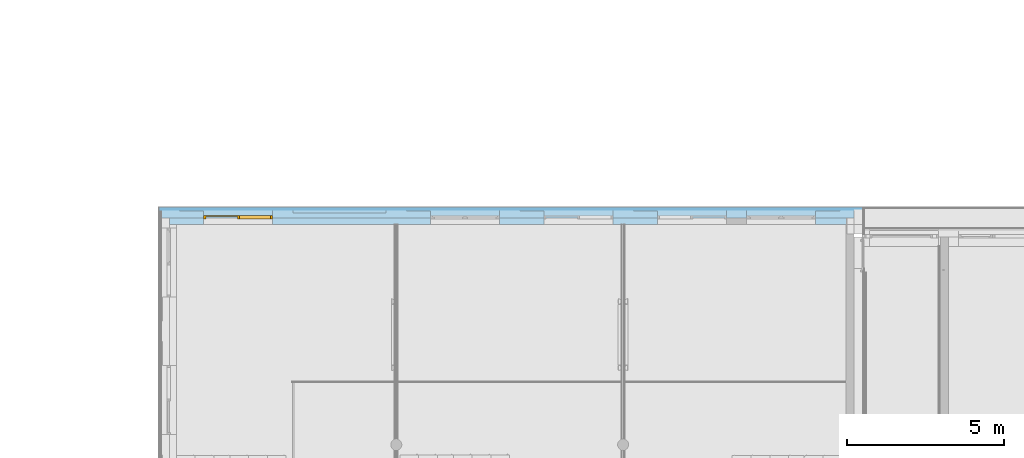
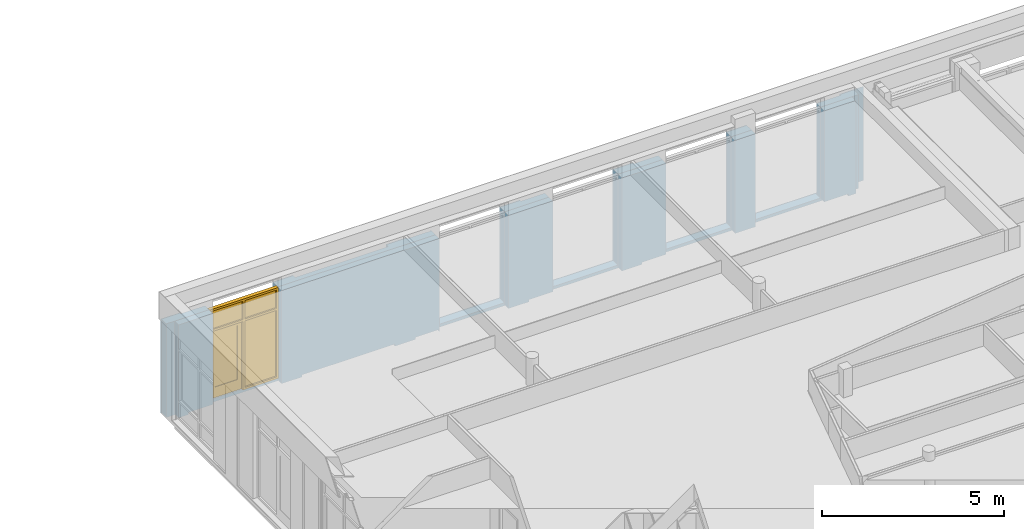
# One storey, part 41 of 167: 1 door, 11 openings, 1 element without a shape of its own, plus 3 elements that do not belong to this part.
"""IFC2X3 building model written with IfcOpenShell, lengths in millimetres."""

from ifc_helpers import new_model, entity, si_unit, converted_unit, derived_unit, money_unit, direction, frame, origin_with_axes, place, context, subcontext, project, spatial, open_shell, faceted_brep, surface_model, source, transform, mapped, material, type_object, type_shapes, element, fill, aggregate, save


model = new_model("IFC2X3")

# Units and contexts
model_context = context("Model", 3, precision=0.01, world=origin_with_axes(), true_north=direction((0.0, 1.0)))
plan_context = context("Plan", 3, precision=0.01, world=origin_with_axes(), true_north=direction((0.0, 1.0)))
body_context = subcontext(model_context, "Body", "Model", "MODEL_VIEW")
ifc_project = project(units=[si_unit("LENGTHUNIT", "METRE", prefix="MILLI"), si_unit("AREAUNIT", "SQUARE_METRE"), si_unit("VOLUMEUNIT", "CUBIC_METRE"), converted_unit("PLANEANGLEUNIT", "DEGREE", entity("IfcPlaneAngleMeasure", 0.0174532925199), si_unit("PLANEANGLEUNIT", "RADIAN"), dimensions=[0, 0, 0, 0, 0, 0, 0]), si_unit("SOLIDANGLEUNIT", "STERADIAN"), money_unit("EUR"), converted_unit("TIMEUNIT", "Year", entity("IfcTimeMeasure", 31556926.0), si_unit("TIMEUNIT", "SECOND"), dimensions=[0, 0, 1, 0, 0, 0, 0]), si_unit("MASSUNIT", "GRAM", prefix="KILO"), si_unit("THERMODYNAMICTEMPERATUREUNIT", "DEGREE_CELSIUS"), si_unit("LUMINOUSINTENSITYUNIT", "LUMEN"), si_unit("ENERGYUNIT", "JOULE", prefix="MEGA"), derived_unit("THERMALCONDUCTANCEUNIT", [(si_unit("POWERUNIT", "WATT"), 1), (si_unit("LENGTHUNIT", "METRE"), -1), (si_unit("THERMODYNAMICTEMPERATUREUNIT", "KELVIN"), -1)]), derived_unit("SPECIFICHEATCAPACITYUNIT", [(si_unit("ENERGYUNIT", "JOULE"), 1), (si_unit("MASSUNIT", "GRAM", prefix="KILO"), -1), (si_unit("THERMODYNAMICTEMPERATUREUNIT", "KELVIN"), -1)]), derived_unit("MASSDENSITYUNIT", [(si_unit("MASSUNIT", "GRAM", prefix="KILO"), 1), (si_unit("VOLUMEUNIT", "CUBIC_METRE"), -1)])], contexts=[model_context, plan_context])

# Site, building, storey
site_placement = place(None, origin_with_axes())
site = spatial("IfcSite", under=ifc_project, at=site_placement, Name="Site", CompositionType="ELEMENT")
building_placement = place(site_placement, origin_with_axes())
building = spatial("IfcBuilding", under=site, at=building_placement, Name="Naam gebouw", CompositionType="ELEMENT")
storey_placement = place(building_placement, origin_with_axes())
storey = spatial("IfcBuildingStorey", under=building, at=storey_placement, Name="Begane grond", CompositionType="ELEMENT", Elevation=0.0)

# Door
door_style = type_object("IfcDoorStyle", Name="D1 bl zl1-b 24", ConstructionType="NOTDEFINED", OperationType="SINGLE_SWING_LEFT", ParameterTakesPrecedence=False, Sizeable=False)
shared_shape = source(origin_with_axes(), body_context, "Body", "SurfaceModel", [
    faceted_brep([(1095.0, 0.0, 0.0), (1095.0, -114.0, 0.0), (1028.0, -114.0, 0.0), (1028.0, 0.0, 0.0), (1095.0, 0.0, 2983.0), (1095.0, -114.0, 2983.0), (1028.0, -114.0, 2983.0), (1028.0, -114.0, 2367.0), (1028.0, -114.0, 2300.0), (1028.0, -114.0, 67.0), (1028.0, 0.0, 67.0), (1028.0, 0.0, 2300.0), (1028.0, 0.0, 2367.0), (1028.0, 0.0, 2983.0)], [[[0, 1, 2, 3]], [[4, 5, 1, 0]], [[1, 5, 6, 7, 8, 9, 2]], [[3, 2, 9, 10]], [[0, 3, 10, 11, 12, 13, 4]], [[13, 6, 5, 4]], [[12, 7, 6, 13]], [[11, 8, 7, 12]], [[10, 9, 8, 11]]]),
    faceted_brep([(-28.0, -40.0, 2317.0), (-28.0, -40.0, 2300.0), (-28.0, -114.0, 2300.0), (-28.0, -114.0, 2367.0), (-28.0, 0.0, 2367.0), (-28.0, 0.0, 2317.0), (-11.0, -40.0, 2317.0), (-11.0, -40.0, 0.0), (-28.0, -40.0, 0.0), (-28.0, -114.0, 0.0), (39.0, -114.0, 0.0), (39.0, -114.0, 67.0), (39.0, -114.0, 2300.0), (39.0, -114.0, 2367.0), (39.0, -114.0, 2983.0), (-28.0, -114.0, 2983.0), (-28.0, 0.0, 2983.0), (-11.0, 0.0, 2317.0), (39.0, 0.0, 2983.0), (39.0, 0.0, 2367.0), (39.0, 0.0, 2300.0), (39.0, 0.0, 67.0), (39.0, 0.0, 0.0), (-11.0, 0.0, 0.0)], [[[0, 1, 2, 3, 4, 5]], [[0, 6, 7, 8, 1]], [[8, 9, 2, 1]], [[2, 9, 10, 11, 12, 13, 14, 15, 3]], [[16, 4, 3, 15]], [[17, 5, 4, 16, 18, 19, 20, 21, 22, 23]], [[5, 17, 6, 0]], [[23, 7, 6, 17]], [[7, 23, 22, 10, 9, 8]], [[22, 21, 11, 10]], [[21, 20, 12, 11]], [[20, 19, 13, 12]], [[19, 18, 14, 13]], [[18, 16, 15, 14]]]),
    faceted_brep([(1028.0, 0.0, 67.0), (1028.0, -114.0, 67.0), (1028.0, -114.0, 0.0), (1028.0, 0.0, 0.0), (39.0, 0.0, 67.0), (39.0, -114.0, 67.0), (39.0, -114.0, 0.0), (39.0, 0.0, 0.0)], [[[0, 1, 2, 3]], [[4, 5, 1, 0]], [[1, 5, 6, 2]], [[3, 2, 6, 7]], [[0, 3, 7, 4]], [[7, 6, 5, 4]]]),
    faceted_brep([(-1045.0, 0.0, 2317.0), (-1045.0, 0.0, 0.0), (-1095.0, 0.0, 0.0), (-1095.0, 0.0, 2983.0), (-1028.0, 0.0, 2983.0), (-1028.0, 0.0, 2367.0), (-1028.0, 0.0, 2317.0), (-1045.0, -40.0, 2317.0), (-1045.0, -40.0, 0.0), (-1028.0, -40.0, 0.0), (-1028.0, -114.0, 0.0), (-1095.0, -114.0, 0.0), (-1095.0, -114.0, 2983.0), (-1028.0, -114.0, 2983.0), (-1028.0, -114.0, 2367.0), (-1028.0, -40.0, 2317.0), (-1028.0, -114.0, 2300.0)], [[[0, 1, 2, 3, 4, 5, 6]], [[0, 7, 8, 1]], [[8, 9, 10, 11, 2, 1]], [[3, 2, 11, 12]], [[4, 3, 12, 13]], [[5, 4, 13, 14]], [[15, 6, 5, 14, 16, 10, 9]], [[6, 15, 7, 0]], [[8, 7, 15, 9]], [[14, 13, 12, 11, 10, 16]]]),
    faceted_brep([(1095.0, 0.0, 3050.0), (1095.0, -114.0, 3050.0), (1095.0, -114.0, 2983.0), (1095.0, 0.0, 2983.0), (-1095.0, 0.0, 3050.0), (-1095.0, -114.0, 3050.0), (-1095.0, -114.0, 2983.0), (-1028.0, -114.0, 2983.0), (-28.0, -114.0, 2983.0), (39.0, -114.0, 2983.0), (1028.0, -114.0, 2983.0), (1028.0, 0.0, 2983.0), (39.0, 0.0, 2983.0), (-28.0, 0.0, 2983.0), (-1028.0, 0.0, 2983.0), (-1095.0, 0.0, 2983.0)], [[[0, 1, 2, 3]], [[4, 5, 1, 0]], [[1, 5, 6, 7, 8, 9, 10, 2]], [[3, 2, 10, 11]], [[0, 3, 11, 12, 13, 14, 15, 4]], [[15, 6, 5, 4]], [[14, 7, 6, 15]], [[13, 8, 7, 14]], [[12, 9, 8, 13]], [[11, 10, 9, 12]]]),
    faceted_brep([(1028.0, 0.0, 2300.0), (1028.0, -114.0, 2300.0), (39.0, -114.0, 2300.0), (39.0, 0.0, 2300.0), (1028.0, 0.0, 2367.0), (1028.0, -114.0, 2367.0), (39.0, -114.0, 2367.0), (39.0, 0.0, 2367.0)], [[[0, 1, 2, 3]], [[4, 5, 1, 0]], [[1, 5, 6, 2]], [[3, 2, 6, 7]], [[0, 3, 7, 4]], [[7, 6, 5, 4]]]),
    faceted_brep([(-1028.0, -40.0, 2317.0), (-1028.0, -40.0, 2300.0), (-1028.0, -114.0, 2300.0), (-1028.0, -114.0, 2367.0), (-1028.0, 0.0, 2367.0), (-1028.0, 0.0, 2317.0), (-28.0, -40.0, 2317.0), (-28.0, -40.0, 2300.0), (-28.0, -114.0, 2300.0), (-28.0, -114.0, 2367.0), (-28.0, 0.0, 2367.0), (-28.0, 0.0, 2317.0)], [[[0, 1, 2, 3, 4, 5]], [[0, 6, 7, 1]], [[7, 8, 2, 1]], [[8, 9, 3, 2]], [[10, 4, 3, 9]], [[5, 4, 10, 11]], [[5, 11, 6, 0]], [[6, 11, 10, 9, 8, 7]]]),
    faceted_brep([(-1045.0, 0.0, 350.0), (-895.0, 0.0, 350.0), (-895.0, -40.0, 350.0), (-1045.0, -40.0, 350.0), (-1045.0, 0.0, 2167.0), (-895.0, 0.0, 2167.0), (-895.0, -40.0, 2167.0), (-1045.0, -40.0, 2167.0)], [[[0, 1, 2, 3]], [[0, 4, 5, 1]], [[1, 5, 6, 2]], [[3, 2, 6, 7]], [[4, 0, 3, 7]], [[5, 4, 7, 6]]]),
    faceted_brep([(-11.0, 0.0, 350.0), (-11.0, 0.0, 2167.0), (-11.0, -40.0, 2167.0), (-11.0, -40.0, 350.0), (-161.0, 0.0, 350.0), (-161.0, 0.0, 2167.0), (-161.0, -40.0, 2167.0), (-161.0, -40.0, 350.0)], [[[0, 1, 2, 3]], [[0, 4, 5, 1]], [[1, 5, 6, 2]], [[3, 2, 6, 7]], [[4, 0, 3, 7]], [[5, 4, 7, 6]]]),
    faceted_brep([(-1045.0, 0.0, 0.0), (-11.0, 0.0, 0.0), (-11.0, -40.0, 0.0), (-1045.0, -40.0, 0.0), (-1045.0, 0.0, 350.0), (-895.0, 0.0, 350.0), (-161.0, 0.0, 350.0), (-11.0, 0.0, 350.0), (-11.0, -40.0, 350.0), (-161.0, -40.0, 350.0), (-895.0, -40.0, 350.0), (-1045.0, -40.0, 350.0)], [[[0, 1, 2, 3]], [[0, 4, 5, 6, 7, 1]], [[1, 7, 8, 2]], [[3, 2, 8, 9, 10, 11]], [[4, 0, 3, 11]], [[5, 4, 11, 10]], [[6, 5, 10, 9]], [[7, 6, 9, 8]]]),
    faceted_brep([(-1045.0, 0.0, 2317.0), (-1045.0, 0.0, 2167.0), (-1045.0, -40.0, 2167.0), (-1045.0, -40.0, 2317.0), (-11.0, 0.0, 2317.0), (-11.0, 0.0, 2167.0), (-161.0, 0.0, 2167.0), (-895.0, 0.0, 2167.0), (-895.0, -40.0, 2167.0), (-161.0, -40.0, 2167.0), (-11.0, -40.0, 2167.0), (-11.0, -40.0, 2317.0)], [[[0, 1, 2, 3]], [[0, 4, 5, 6, 7, 1]], [[1, 7, 8, 2]], [[3, 2, 8, 9, 10, 11]], [[4, 0, 3, 11]], [[5, 4, 11, 10]], [[6, 5, 10, 9]], [[7, 6, 9, 8]]]),
    surface_model("IfcShellBasedSurfaceModel", [(-895.0, -14.0, 350.0), (-895.0, -14.0, 2167.0), (-161.0, -14.0, 2167.0), (-161.0, -14.0, 350.0)], [open_shell([[[0, 1, 2, 3]]])]),
    surface_model("IfcShellBasedSurfaceModel", [(-895.0, -26.0, 350.0), (-161.0, -26.0, 350.0), (-161.0, -26.0, 2167.0), (-895.0, -26.0, 2167.0)], [open_shell([[[0, 1, 2, 3]]])]),
    surface_model("IfcShellBasedSurfaceModel", [(1028.0, -54.0, 2367.0), (39.0, -54.0, 2367.0), (39.0, -54.0, 2983.0), (1028.0, -54.0, 2983.0)], [open_shell([[[0, 1, 2, 3]]])]),
    surface_model("IfcShellBasedSurfaceModel", [(1028.0, -66.0, 2367.0), (1028.0, -66.0, 2983.0), (39.0, -66.0, 2983.0), (39.0, -66.0, 2367.0)], [open_shell([[[0, 1, 2, 3]]])]),
    surface_model("IfcShellBasedSurfaceModel", [(-28.0, -54.0, 2367.0), (-1028.0, -54.0, 2367.0), (-1028.0, -54.0, 2983.0), (-28.0, -54.0, 2983.0)], [open_shell([[[0, 1, 2, 3]]])]),
    surface_model("IfcShellBasedSurfaceModel", [(-28.0, -66.0, 2367.0), (-28.0, -66.0, 2983.0), (-1028.0, -66.0, 2983.0), (-1028.0, -66.0, 2367.0)], [open_shell([[[0, 1, 2, 3]]])]),
    surface_model("IfcShellBasedSurfaceModel", [(1028.0, -54.0, 67.0), (39.0, -54.0, 67.0), (39.0, -54.0, 2300.0), (1028.0, -54.0, 2300.0)], [open_shell([[[0, 1, 2, 3]]])]),
    surface_model("IfcShellBasedSurfaceModel", [(1028.0, -66.0, 67.0), (1028.0, -66.0, 2300.0), (39.0, -66.0, 2300.0), (39.0, -66.0, 67.0)], [open_shell([[[0, 1, 2, 3]]])]),
])
type_shapes(door_style, [shared_shape])
wall_placement = place(storey_placement, frame((21725.0, 50400.0, -100.0), z_axis=(0.0, 0.0, 1.0), x_axis=(-1.0, 0.0, 0.0)))
opening_9_placement = place(wall_placement, frame((19543.5359441, 0.0, 100.0), z_axis=(0.0, 0.0, 1.0), x_axis=(1.0, 0.0, 0.0)))
door_placement = place(opening_9_placement, frame((1095.0, 0.0, 0.0), z_axis=(0.0, 0.0, 1.0), x_axis=(-1.0, 0.0, 0.0)))
door = element("IfcDoor", 1, at=door_placement, inside=storey, type_object=door_style, Name="32_Deur_He-08s", ObjectType="DOOR", OverallHeight=3050.0, OverallWidth=2190.0, context=body_context, shape_type="MappedRepresentation", body=[
    mapped(shared_shape, transform((1095.0, 84.0, 0.0))),
])

# Wall, openings
wall_type = type_object("IfcWallType", Name="_TenW_21_E-BOARD_bg_standaard 498", PredefinedType="NOTDEFINED")
wall = element("IfcWall", 2, at=wall_placement, inside=storey, type_object=wall_type, Name="21_Wand_Wand-x")
opening_1_placement = place(wall_placement, frame((21020.6609441, 0.0, 100.0), z_axis=(0.0, 0.0, 1.0), x_axis=(1.0, 0.0, 0.0)))
element("IfcOpeningElement", 3, at=opening_1_placement, cuts=wall, Name="31_Raam_-", context=body_context, shape_type="Brep", body=[
    faceted_brep([(382.125, -782.0, 0.0), (-382.125, -782.0, 0.0), (-382.125, -224.0, 0.0), (382.125, -224.0, 0.0), (382.125, -782.0, 3050.0), (-382.125, -782.0, 3050.0), (-382.125, -224.0, 3050.0), (382.125, -224.0, 3050.0)], [[[0, 1, 2, 3]], [[0, 4, 5, 1]], [[1, 5, 6, 2]], [[3, 2, 6, 7]], [[4, 0, 3, 7]], [[5, 4, 7, 6]]]),
])
opening_2_placement = place(wall_placement, frame((16325.0859441, 0.0, 100.0), z_axis=(0.0, 0.0, 1.0), x_axis=(1.0, 0.0, 0.0)))
element("IfcOpeningElement", 4, at=opening_2_placement, cuts=wall, Name="31_Raam_-", context=body_context, shape_type="Brep", body=[
    faceted_brep([(1477.4, -782.0, 0.0), (-1477.4, -782.0, 0.0), (-1477.4, -160.0, 0.0), (1477.4, -160.0, 0.0), (1477.4, -782.0, 3050.0), (-1477.4, -782.0, 3050.0), (-1477.4, -160.0, 3050.0), (1477.4, -160.0, 3050.0)], [[[0, 1, 2, 3]], [[0, 4, 5, 1]], [[1, 5, 6, 2]], [[3, 2, 6, 7]], [[4, 0, 3, 7]], [[5, 4, 7, 6]]]),
])
opening_3_placement = place(wall_placement, frame((13820.0609441, 0.0, 100.0), z_axis=(0.0, 0.0, 1.0), x_axis=(1.0, 0.0, 0.0)))
element("IfcOpeningElement", 5, at=opening_3_placement, cuts=wall, Name="31_Raam_-", context=body_context, shape_type="Brep", body=[
    faceted_brep([(382.125, -782.0, 0.0), (-382.125, -782.0, 0.0), (-382.125, -224.0, 0.0), (382.125, -224.0, 0.0), (382.125, -782.0, 3050.0), (-382.125, -782.0, 3050.0), (-382.125, -224.0, 3050.0), (382.125, -224.0, 3050.0)], [[[0, 1, 2, 3]], [[0, 4, 5, 1]], [[1, 5, 6, 2]], [[3, 2, 6, 7]], [[4, 0, 3, 7]], [[5, 4, 7, 6]]]),
])
opening_4_placement = place(wall_placement, frame((10219.7609441, 0.0, 100.0), z_axis=(0.0, 0.0, 1.0), x_axis=(1.0, 0.0, 0.0)))
element("IfcOpeningElement", 6, at=opening_4_placement, cuts=wall, Name="31_Raam_-", context=body_context, shape_type="Brep", body=[
    faceted_brep([(382.125, -782.0, 0.0), (-382.125, -782.0, 0.0), (-382.125, -224.0, 0.0), (382.125, -224.0, 0.0), (382.125, -782.0, 3050.0), (-382.125, -782.0, 3050.0), (-382.125, -224.0, 3050.0), (382.125, -224.0, 3050.0)], [[[0, 1, 2, 3]], [[0, 4, 5, 1]], [[1, 5, 6, 2]], [[3, 2, 6, 7]], [[4, 0, 3, 7]], [[5, 4, 7, 6]]]),
])
opening_5_placement = place(wall_placement, frame((6619.46094407, 0.0, 100.0), z_axis=(0.0, 0.0, 1.0), x_axis=(1.0, 0.0, 0.0)))
element("IfcOpeningElement", 7, at=opening_5_placement, cuts=wall, Name="31_Raam_-", context=body_context, shape_type="Brep", body=[
    faceted_brep([(382.125, -782.0, 0.0), (-382.125, -782.0, 0.0), (-382.125, -224.0, 0.0), (382.125, -224.0, 0.0), (382.125, -782.0, 3050.0), (-382.125, -782.0, 3050.0), (-382.125, -224.0, 3050.0), (382.125, -224.0, 3050.0)], [[[0, 1, 2, 3]], [[0, 4, 5, 1]], [[1, 5, 6, 2]], [[3, 2, 6, 7]], [[4, 0, 3, 7]], [[5, 4, 7, 6]]]),
])
opening_6_placement = place(wall_placement, frame((828.610944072, 0.0, 100.0), z_axis=(0.0, 0.0, 1.0), x_axis=(1.0, 0.0, 0.0)))
element("IfcOpeningElement", 8, at=opening_6_placement, cuts=wall, Name="31_Raam_-", context=body_context, shape_type="Brep", body=[
    faceted_brep([(382.125, -782.0, 0.0), (-382.125, -782.0, 0.0), (-382.125, -224.0, 0.0), (382.125, -224.0, 0.0), (382.125, -782.0, 3050.0), (-382.125, -782.0, 3050.0), (-382.125, -224.0, 3050.0), (382.125, -224.0, 3050.0)], [[[0, 1, 2, 3]], [[0, 4, 5, 1]], [[1, 5, 6, 2]], [[3, 2, 6, 7]], [[4, 0, 3, 7]], [[5, 4, 7, 6]]]),
])
opening_7_placement = place(wall_placement, frame((12342.3859441, 0.0, 100.0), z_axis=(0.0, 0.0, 1.0), x_axis=(1.0, 0.0, 0.0)))
element("IfcOpeningElement", 9, at=opening_7_placement, cuts=wall, Name="31_Raam_He-16", context=body_context, shape_type="Brep", body=[
    faceted_brep([(-1095.0, -84.0, 0.0), (-1095.0, -84.0, 3050.0), (-1095.0, 712.0, 3050.0), (-1095.0, 712.0, 0.0), (1095.0, -84.0, 0.0), (1095.0, -84.0, 3050.0), (1095.0, 712.0, 3050.0), (1095.0, 712.0, 0.0)], [[[0, 1, 2, 3]], [[0, 4, 5, 1]], [[1, 5, 6, 2]], [[3, 2, 6, 7]], [[4, 0, 3, 7]], [[5, 4, 7, 6]]]),
    faceted_brep([(-1095.0, -84.0, 3050.0), (-1095.0, -84.0, 0.0), (-1095.0, -782.0, 0.0), (-1095.0, -782.0, 3050.0), (1095.0, -84.0, 3050.0), (1095.0, -84.0, 0.0), (1095.0, -782.0, 0.0), (1095.0, -782.0, 3050.0)], [[[0, 1, 2, 3]], [[0, 4, 5, 1]], [[1, 5, 6, 2]], [[3, 2, 6, 7]], [[4, 0, 3, 7]], [[5, 4, 7, 6]]]),
])
opening_8_placement = place(wall_placement, frame((2305.73594407, 0.0, 100.0), z_axis=(0.0, 0.0, 1.0), x_axis=(1.0, 0.0, 0.0)))
element("IfcOpeningElement", 10, at=opening_8_placement, cuts=wall, Name="31_Raam_He-16", context=body_context, shape_type="Brep", body=[
    faceted_brep([(-1095.0, -84.0, 0.0), (-1095.0, -84.0, 3050.0), (-1095.0, 712.0, 3050.0), (-1095.0, 712.0, 0.0), (1095.0, -84.0, 0.0), (1095.0, -84.0, 3050.0), (1095.0, 712.0, 3050.0), (1095.0, 712.0, 0.0)], [[[0, 1, 2, 3]], [[0, 4, 5, 1]], [[1, 5, 6, 2]], [[3, 2, 6, 7]], [[4, 0, 3, 7]], [[5, 4, 7, 6]]]),
    faceted_brep([(-1095.0, -84.0, 3050.0), (-1095.0, -84.0, 0.0), (-1095.0, -782.0, 0.0), (-1095.0, -782.0, 3050.0), (1095.0, -84.0, 3050.0), (1095.0, -84.0, 0.0), (1095.0, -782.0, 0.0), (1095.0, -782.0, 3050.0)], [[[0, 1, 2, 3]], [[0, 4, 5, 1]], [[1, 5, 6, 2]], [[3, 2, 6, 7]], [[4, 0, 3, 7]], [[5, 4, 7, 6]]]),
])
opening_9 = element("IfcOpeningElement", 11, at=opening_9_placement, cuts=wall, Name="32_Deur_He-08s", context=body_context, shape_type="Brep", body=[
    faceted_brep([(1095.0, -84.0, 3050.0), (1095.0, -84.0, 0.0), (1095.0, 712.0, 0.0), (1095.0, 712.0, 3050.0), (-1095.0, -84.0, 3050.0), (-1095.0, -84.0, 0.0), (-1095.0, 712.0, 0.0), (-1095.0, 712.0, 3050.0)], [[[0, 1, 2, 3]], [[0, 4, 5, 1]], [[1, 5, 6, 2]], [[3, 2, 6, 7]], [[4, 0, 3, 7]], [[5, 4, 7, 6]]]),
    faceted_brep([(1095.0, -84.0, 0.0), (1095.0, -84.0, 3050.0), (1095.0, -782.0, 3050.0), (1095.0, -782.0, 0.0), (-1095.0, -84.0, 0.0), (-1095.0, -84.0, 3050.0), (-1095.0, -782.0, 3050.0), (-1095.0, -782.0, 0.0)], [[[0, 1, 2, 3]], [[0, 4, 5, 1]], [[1, 5, 6, 2]], [[3, 2, 6, 7]], [[4, 0, 3, 7]], [[5, 4, 7, 6]]]),
])

fill(opening_9, door)

# Opening
opening_10_placement = place(wall_placement, frame((8742.63594407, 0.0, 100.0), z_axis=(0.0, 0.0, 1.0), x_axis=(1.0, 0.0, 0.0)))
element("IfcOpeningElement", 12, at=opening_10_placement, cuts=wall, Name="32_Deur_He-08s", context=body_context, shape_type="Brep", body=[
    faceted_brep([(1095.0, -84.0, 3050.0), (1095.0, -84.0, 0.0), (1095.0, 712.0, 0.0), (1095.0, 712.0, 3050.0), (-1095.0, -84.0, 3050.0), (-1095.0, -84.0, 0.0), (-1095.0, 712.0, 0.0), (-1095.0, 712.0, 3050.0)], [[[0, 1, 2, 3]], [[0, 4, 5, 1]], [[1, 5, 6, 2]], [[3, 2, 6, 7]], [[4, 0, 3, 7]], [[5, 4, 7, 6]]]),
    faceted_brep([(1095.0, -84.0, 0.0), (1095.0, -84.0, 3050.0), (1095.0, -782.0, 3050.0), (1095.0, -782.0, 0.0), (-1095.0, -84.0, 0.0), (-1095.0, -84.0, 3050.0), (-1095.0, -782.0, 3050.0), (-1095.0, -782.0, 0.0)], [[[0, 1, 2, 3]], [[0, 4, 5, 1]], [[1, 5, 6, 2]], [[3, 2, 6, 7]], [[4, 0, 3, 7]], [[5, 4, 7, 6]]]),
])

opening_11_placement = place(wall_placement, frame((5142.33594407, 0.0, 100.0), z_axis=(0.0, 0.0, 1.0), x_axis=(1.0, 0.0, 0.0)))
element("IfcOpeningElement", 13, at=opening_11_placement, cuts=wall, Name="32_Deur_He-08", context=body_context, shape_type="Brep", body=[
    faceted_brep([(-1095.0, 712.0, 3050.0), (-1095.0, 712.0, 0.0), (-1095.0, -84.0, 0.0), (-1095.0, -84.0, 3050.0), (1095.0, 712.0, 3050.0), (1095.0, 712.0, 0.0), (1095.0, -84.0, 0.0), (1095.0, -84.0, 3050.0)], [[[0, 1, 2, 3]], [[0, 4, 5, 1]], [[1, 5, 6, 2]], [[3, 2, 6, 7]], [[4, 0, 3, 7]], [[5, 4, 7, 6]]]),
    faceted_brep([(-1095.0, -782.0, 0.0), (-1095.0, -782.0, 3050.0), (-1095.0, -84.0, 3050.0), (-1095.0, -84.0, 0.0), (1095.0, -782.0, 0.0), (1095.0, -782.0, 3050.0), (1095.0, -84.0, 3050.0), (1095.0, -84.0, 0.0)], [[[0, 1, 2, 3]], [[0, 4, 5, 1]], [[1, 5, 6, 2]], [[3, 2, 6, 7]], [[4, 0, 3, 7]], [[5, 4, 7, 6]]]),
])

# Building element part
ifc_material_1 = material(Name="Steen - Kalkzandsteen C")
building_element_part_1_placement = place(wall_placement, origin_with_axes())
building_element_part_1 = element("IfcBuildingElementPart", 14, at=building_element_part_1_placement, material=ifc_material_1, Name="Steen - Kalkzandsteen C", context=body_context, shape_type="Brep", body=[
    faceted_brep([(6237.33594407, 214.0, 3150.0), (6237.33594407, 0.0, 3150.0), (7647.63594407, 0.0, 3150.0), (7647.63594407, 214.0, 3150.0), (6237.33594407, 0.0, 100.0), (6237.33594407, 214.0, 100.0), (7001.58594407, 0.0, 100.0), (7001.58594407, 0.0, 30.0), (7647.63594407, 0.0, 30.0), (7647.63594407, 0.0, 100.0), (7647.63594407, 214.0, 100.0), (7647.63594407, 214.0, 30.0), (7001.58594407, 214.0, 30.0), (7001.58594407, 214.0, 100.0)], [[[0, 1, 2, 3]], [[4, 1, 0, 5]], [[1, 4, 6, 7, 8, 9, 2]], [[2, 9, 10, 3]], [[5, 0, 3, 10, 11, 12, 13]], [[4, 5, 13, 6]], [[13, 12, 7, 6]], [[7, 12, 11, 8]], [[9, 8, 11, 10]]]),
    faceted_brep([(14847.6859441, 0.0, 100.0), (17802.4859441, 0.0, 100.0), (17802.4859441, 0.0, 30.0), (18448.5359441, 0.0, 30.0), (18448.5359441, 0.0, 100.0), (18448.5359441, 0.0, 3150.0), (13437.3859441, 0.0, 3150.0), (13437.3859441, 0.0, 100.0), (13437.3859441, 0.0, 30.0), (13437.9359441, 0.0, 30.0), (13437.9359441, 0.0, 100.0), (14202.1859441, 0.0, 100.0), (14202.1859441, 0.0, 30.0), (14847.6859441, 0.0, 30.0), (14847.6859441, 214.0, 100.0), (17802.4859441, 214.0, 100.0), (17802.4859441, 214.0, 30.0), (18448.5359441, 214.0, 30.0), (18448.5359441, 214.0, 100.0), (18448.5359441, 214.0, 3150.0), (13437.3859441, 214.0, 3150.0), (13437.3859441, 214.0, 100.0), (13437.3859441, 214.0, 30.0), (13437.9359441, 214.0, 30.0), (13437.9359441, 214.0, 100.0), (14202.1859441, 214.0, 100.0), (14202.1859441, 214.0, 30.0), (14847.6859441, 214.0, 30.0)], [[[0, 1, 2, 3, 4, 5, 6, 7, 8, 9, 10, 11, 12, 13]], [[1, 0, 14, 15]], [[2, 1, 15, 16]], [[17, 3, 2, 16]], [[18, 4, 3, 17]], [[19, 5, 4, 18]], [[5, 19, 20, 6]], [[21, 7, 6, 20]], [[8, 7, 21, 22]], [[23, 9, 8, 22]], [[10, 9, 23, 24]], [[11, 10, 24, 25]], [[12, 11, 25, 26]], [[27, 13, 12, 26]], [[0, 13, 27, 14]], [[23, 22, 21, 20, 19, 18, 17, 16, 15, 14, 27, 26, 25, 24]]]),
    faceted_brep([(1210.73594407, 0.0, 100.0), (1210.73594407, 0.0, 3150.0), (214.0, 0.0, 3150.0), (214.0, 0.0, 30.0), (446.485944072, 0.0, 30.0), (446.485944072, 0.0, 100.0), (1210.73594407, 214.0, 100.0), (1210.73594407, 214.0, 3150.0), (214.0, 214.0, 3150.0), (214.0, 214.0, 30.0), (446.485944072, 214.0, 30.0), (446.485944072, 214.0, 100.0)], [[[0, 1, 2, 3, 4, 5]], [[0, 6, 7, 1]], [[8, 2, 1, 7]], [[9, 3, 2, 8]], [[10, 4, 3, 9]], [[5, 4, 10, 11]], [[5, 11, 6, 0]], [[7, 6, 11, 10, 9, 8]]]),
    faceted_brep([(11247.3859441, 0.0, 3150.0), (11247.3859441, 214.0, 3150.0), (9837.63594407, 214.0, 3150.0), (9837.63594407, 0.0, 3150.0), (11247.3859441, 0.0, 100.0), (11247.3859441, 214.0, 100.0), (10601.8859441, 214.0, 30.0), (10601.8859441, 214.0, 100.0), (9837.63594407, 214.0, 100.0), (11247.3859441, 214.0, 30.0), (9837.63594407, 0.0, 100.0), (10601.8859441, 0.0, 100.0), (10601.8859441, 0.0, 30.0), (11247.3859441, 0.0, 30.0)], [[[0, 1, 2, 3]], [[4, 5, 1, 0]], [[6, 7, 8, 2, 1, 5, 9]], [[2, 8, 10, 3]], [[4, 0, 3, 10, 11, 12, 13]], [[13, 9, 5, 4]], [[6, 12, 11, 7]], [[7, 11, 10, 8]], [[6, 9, 13, 12]]]),
    faceted_brep([(20638.5359441, 214.0, 3150.0), (20638.5359441, 0.0, 3150.0), (21725.0, 0.0, 3150.0), (21725.0, 214.0, 3150.0), (20638.5359441, 0.0, 100.0), (20638.5359441, 214.0, 100.0), (21402.7859441, 0.0, 100.0), (21402.7859441, 0.0, 30.0), (21725.0, 0.0, 30.0), (21725.0, 214.0, 30.0), (21402.7859441, 214.0, 30.0), (21402.7859441, 214.0, 100.0)], [[[0, 1, 2, 3]], [[4, 1, 0, 5]], [[6, 7, 8, 2, 1, 4]], [[8, 9, 3, 2]], [[3, 9, 10, 11, 5, 0]], [[4, 5, 11, 6]], [[7, 6, 11, 10]], [[7, 10, 9, 8]]]),
    faceted_brep([(4047.33594407, 0.0, 100.0), (4047.33594407, 0.0, 3150.0), (3400.73594407, 0.0, 3150.0), (3400.73594407, 0.0, 100.0), (3400.73594407, 0.0, 30.0), (4047.33594407, 0.0, 30.0), (4047.33594407, 214.0, 3150.0), (4047.33594407, 214.0, 100.0), (3400.73594407, 214.0, 3150.0), (3400.73594407, 214.0, 100.0), (3400.73594407, 214.0, 30.0), (4047.33594407, 214.0, 30.0)], [[[0, 1, 2, 3, 4, 5]], [[6, 1, 0, 7]], [[1, 6, 8, 2]], [[3, 2, 8, 9]], [[3, 9, 10, 4]], [[4, 10, 11, 5]], [[7, 0, 5, 11]], [[6, 7, 11, 10, 9, 8]]]),
])

ifc_material_2 = material(Name="Isolatie - Steenwol zacht")
building_element_part_2_placement = place(wall_placement, origin_with_axes())
building_element_part_2 = element("IfcBuildingElementPart", 15, at=building_element_part_2_placement, material=ifc_material_2, Name="Isolatie - Steenwol zacht", context=body_context, shape_type="Brep", body=[
    faceted_brep([(4047.33594407, -84.0, 100.0), (4047.33594407, -84.0, 3150.0), (4047.33594407, -264.0, 3150.0), (4047.33594407, -264.0, 100.0), (4047.33594407, 0.0, 3150.0), (4047.33594407, 0.0, 100.0), (3400.73594407, 0.0, 3150.0), (3400.73594407, -84.0, 3150.0), (3400.73594407, -264.0, 3150.0), (7647.63594407, -264.0, 3150.0), (7001.58594407, -264.0, 3150.0), (7001.58594407, -264.0, 100.0), (3400.73594407, -264.0, 100.0), (446.485944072, -264.0, 100.0), (446.485944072, -264.0, 3150.0), (0.0, -264.0, 3150.0), (0.0, -264.0, 0.0), (21989.0, -264.0, 0.0), (21989.0, -264.0, 3150.0), (21402.7859441, -264.0, 3150.0), (21402.7859441, -264.0, 100.0), (18448.5359441, -264.0, 100.0), (18448.5359441, -264.0, 3150.0), (17802.4859441, -264.0, 3150.0), (17802.4859441, -264.0, 100.0), (14847.6859441, -264.0, 100.0), (14847.6859441, -264.0, 3150.0), (14202.1859441, -264.0, 3150.0), (14202.1859441, -264.0, 100.0), (13437.9359441, -264.0, 100.0), (13437.9359441, -264.0, 3150.0), (13437.3859441, -264.0, 3150.0), (13437.3859441, -264.0, 100.0), (11247.3859441, -264.0, 100.0), (11247.3859441, -264.0, 3150.0), (10601.8859441, -264.0, 3150.0), (10601.8859441, -264.0, 100.0), (7647.63594407, -264.0, 100.0), (6237.33594407, -84.0, 100.0), (7001.58594407, -224.0, 100.0), (6237.33594407, -224.0, 100.0), (6237.33594407, 0.0, 100.0), (6237.33594407, 0.0, 3150.0), (7647.63594407, 0.0, 3150.0), (7647.63594407, 0.0, 100.0), (9837.63594407, 0.0, 100.0), (9837.63594407, 0.0, 3150.0), (11247.3859441, 0.0, 3150.0), (11247.3859441, 0.0, 100.0), (13437.3859441, 0.0, 100.0), (13437.3859441, 0.0, 3150.0), (18448.5359441, 0.0, 3150.0), (18448.5359441, 0.0, 100.0), (20638.5359441, 0.0, 100.0), (20638.5359441, 0.0, 3150.0), (21989.0, 0.0, 3150.0), (21989.0, 0.0, 0.0), (0.0, 0.0, 0.0), (0.0, 0.0, 3150.0), (1210.73594407, 0.0, 3150.0), (1210.73594407, 0.0, 100.0), (3400.73594407, 0.0, 100.0), (3400.73594407, -84.0, 100.0), (6237.33594407, -84.0, 3150.0), (6237.33594407, -224.0, 3150.0), (7001.58594407, -224.0, 3150.0), (7647.63594407, -84.0, 3150.0), (1210.73594407, -84.0, 100.0), (1210.73594407, -224.0, 100.0), (446.485944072, -224.0, 100.0), (446.485944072, -224.0, 3150.0), (1210.73594407, -224.0, 3150.0), (1210.73594407, -84.0, 3150.0), (20638.5359441, -224.0, 3150.0), (21402.7859441, -224.0, 3150.0), (20638.5359441, -84.0, 3150.0), (21402.7859441, -224.0, 100.0), (20638.5359441, -84.0, 100.0), (18448.5359441, -84.0, 100.0), (20638.5359441, -224.0, 100.0), (18448.5359441, -84.0, 3150.0), (13437.3859441, -84.0, 3150.0), (13437.9359441, -224.0, 3150.0), (14202.1859441, -224.0, 3150.0), (14847.6859441, -160.0, 3150.0), (17802.4859441, -160.0, 3150.0), (17802.4859441, -160.0, 100.0), (14847.6859441, -160.0, 100.0), (14202.1859441, -224.0, 100.0), (13437.9359441, -224.0, 100.0), (13437.3859441, -84.0, 100.0), (11247.3859441, -84.0, 100.0), (11247.3859441, -84.0, 3150.0), (9837.63594407, -224.0, 3150.0), (10601.8859441, -224.0, 3150.0), (9837.63594407, -84.0, 3150.0), (10601.8859441, -224.0, 100.0), (9837.63594407, -84.0, 100.0), (7647.63594407, -84.0, 100.0), (9837.63594407, -224.0, 100.0)], [[[0, 1, 2, 3]], [[4, 1, 0, 5]], [[1, 4, 6, 7, 8, 2]], [[9, 10, 11, 3, 2, 8, 12, 13, 14, 15, 16, 17, 18, 19, 20, 21, 22, 23, 24, 25, 26, 27, 28, 29, 30, 31, 32, 33, 34, 35, 36, 37]], [[38, 0, 3, 11, 39, 40]], [[0, 38, 41, 5]], [[41, 42, 43, 44, 45, 46, 47, 48, 49, 50, 51, 52, 53, 54, 55, 56, 57, 58, 59, 60, 61, 6, 4, 5]], [[6, 61, 62, 7]], [[12, 8, 7, 62]], [[42, 63, 64, 65, 10, 9, 66, 43]], [[39, 11, 10, 65]], [[62, 67, 68, 69, 13, 12]], [[13, 69, 70, 14]], [[15, 14, 70, 71, 72, 59, 58]], [[58, 57, 16, 15]], [[56, 17, 16, 57]], [[17, 56, 55, 18]], [[73, 74, 19, 18, 55, 54, 75]], [[76, 20, 19, 74]], [[77, 78, 21, 20, 76, 79]], [[78, 80, 22, 21]], [[50, 81, 31, 30, 82, 83, 27, 26, 84, 85, 23, 22, 80, 51]], [[85, 86, 24, 23]], [[86, 87, 25, 24]], [[25, 87, 84, 26]], [[27, 83, 88, 28]], [[28, 88, 89, 29]], [[30, 29, 89, 82]], [[81, 90, 32, 31]], [[90, 91, 33, 32]], [[91, 92, 34, 33]], [[93, 94, 35, 34, 92, 47, 46, 95]], [[36, 35, 94, 96]], [[97, 98, 37, 36, 96, 99]], [[9, 37, 98, 66]], [[40, 39, 65, 64]], [[63, 38, 40, 64]], [[38, 63, 42, 41]], [[98, 44, 43, 66]], [[45, 44, 98, 97]], [[46, 45, 97, 95]], [[47, 92, 91, 48]], [[91, 90, 49, 48]], [[90, 81, 50, 49]], [[51, 80, 78, 52]], [[78, 77, 53, 52]], [[77, 75, 54, 53]], [[67, 60, 59, 72]], [[61, 60, 67, 62]], [[71, 68, 67, 72]], [[69, 68, 71, 70]], [[79, 76, 74, 73]], [[75, 77, 79, 73]], [[82, 89, 88, 83]], [[87, 86, 85, 84]], [[94, 93, 99, 96]], [[99, 93, 95, 97]]]),
])

ifc_material_3 = material(Name="_TenW_21_Steen - Baksteen")
building_element_part_3_placement = place(wall_placement, origin_with_axes())
building_element_part_3 = element("IfcBuildingElementPart", 16, at=building_element_part_3_placement, material=ifc_material_3, Name="_TenW_21_Steen - Baksteen", context=body_context, shape_type="Brep", body=[
    faceted_brep([(6237.33594407, -284.0, 100.0), (4047.33594407, -284.0, 100.0), (4047.33594407, -284.0, 3150.0), (3400.73594407, -284.0, 3150.0), (3400.73594407, -284.0, 100.0), (446.485944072, -284.0, 100.0), (446.485944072, -284.0, 3150.0), (-304.0, -284.0, 3150.0), (-304.0, -284.0, 0.0), (22009.0, -284.0, 0.0), (22009.0, -284.0, 3150.0), (21402.7859441, -284.0, 3150.0), (21402.7859441, -284.0, 100.0), (18448.5359441, -284.0, 100.0), (18448.5359441, -284.0, 3150.0), (17802.4859441, -284.0, 3150.0), (17802.4859441, -284.0, 100.0), (14847.6859441, -284.0, 100.0), (14847.6859441, -284.0, 3150.0), (14202.1859441, -284.0, 3150.0), (14202.1859441, -284.0, 100.0), (13437.9359441, -284.0, 100.0), (13437.9359441, -284.0, 3150.0), (13437.3859441, -284.0, 3150.0), (13437.3859441, -284.0, 100.0), (11247.3859441, -284.0, 100.0), (11247.3859441, -284.0, 3150.0), (10601.8859441, -284.0, 3150.0), (10601.8859441, -284.0, 100.0), (7647.63594407, -284.0, 100.0), (7647.63594407, -284.0, 3150.0), (7001.58594407, -284.0, 3150.0), (7001.58594407, -284.0, 100.0), (6237.33594407, -264.0, 100.0), (4047.33594407, -264.0, 100.0), (7001.58594407, -264.0, 100.0), (4047.33594407, -264.0, 3150.0), (3400.73594407, -264.0, 3150.0), (3400.73594407, -264.0, 100.0), (1210.73594407, -264.0, 100.0), (446.485944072, -264.0, 100.0), (446.485944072, -264.0, 3150.0), (-304.0, -264.0, 3150.0), (-304.0, -264.0, 0.0), (22009.0, -264.0, 0.0), (22009.0, -264.0, 3150.0), (21402.7859441, -264.0, 3150.0), (21402.7859441, -264.0, 100.0), (20638.5359441, -264.0, 100.0), (18448.5359441, -264.0, 100.0), (18448.5359441, -264.0, 3150.0), (17802.4859441, -264.0, 3150.0), (17802.4859441, -264.0, 100.0), (14847.6859441, -264.0, 100.0), (14847.6859441, -264.0, 3150.0), (14202.1859441, -264.0, 3150.0), (14202.1859441, -264.0, 100.0), (13437.9359441, -264.0, 100.0), (13437.9359441, -264.0, 3150.0), (13437.3859441, -264.0, 3150.0), (13437.3859441, -264.0, 100.0), (11247.3859441, -264.0, 100.0), (11247.3859441, -264.0, 3150.0), (10601.8859441, -264.0, 3150.0), (10601.8859441, -264.0, 100.0), (9837.63594407, -264.0, 100.0), (7647.63594407, -264.0, 100.0), (7647.63594407, -264.0, 3150.0), (7001.58594407, -264.0, 3150.0)], [[[0, 1, 2, 3, 4, 5, 6, 7, 8, 9, 10, 11, 12, 13, 14, 15, 16, 17, 18, 19, 20, 21, 22, 23, 24, 25, 26, 27, 28, 29, 30, 31, 32]], [[33, 34, 1, 0, 32, 35]], [[36, 2, 1, 34]], [[2, 36, 37, 3]], [[38, 4, 3, 37]], [[38, 39, 40, 5, 4]], [[6, 5, 40, 41]], [[41, 42, 7, 6]], [[42, 43, 8, 7]], [[44, 9, 8, 43]], [[9, 44, 45, 10]], [[10, 45, 46, 11]], [[46, 47, 12, 11]], [[47, 48, 49, 13, 12]], [[13, 49, 50, 14]], [[51, 15, 14, 50]], [[15, 51, 52, 16]], [[16, 52, 53, 17]], [[18, 17, 53, 54]], [[55, 19, 18, 54]], [[20, 19, 55, 56]], [[21, 20, 56, 57]], [[58, 22, 21, 57]], [[59, 23, 22, 58]], [[24, 23, 59, 60]], [[25, 24, 60, 61]], [[62, 26, 25, 61]], [[26, 62, 63, 27]], [[64, 28, 27, 63]], [[29, 28, 64, 65, 66]], [[30, 29, 66, 67]], [[67, 68, 31, 30]], [[68, 35, 32, 31]], [[34, 33, 35, 68, 67, 66, 65, 64, 63, 62, 61, 60, 59, 58, 57, 56, 55, 54, 53, 52, 51, 50, 49, 48, 47, 46, 45, 44, 43, 42, 41, 40, 39, 38, 37, 36]]]),
])

aggregate(wall, [building_element_part_1, building_element_part_2, building_element_part_3])

save(model, "model.ifc")
